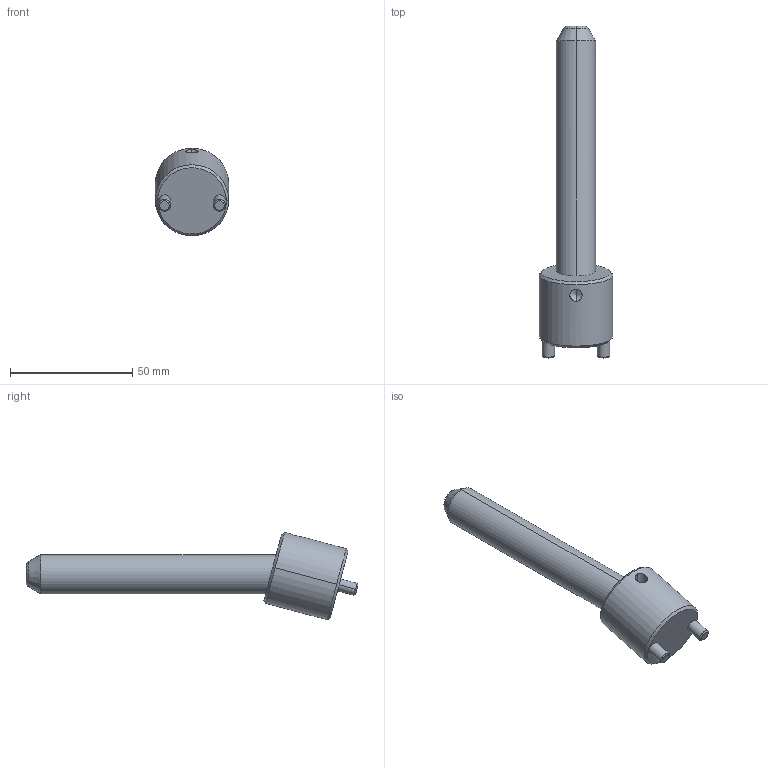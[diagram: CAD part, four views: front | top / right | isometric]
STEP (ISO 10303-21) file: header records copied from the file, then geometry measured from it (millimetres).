
FILE_DESCRIPTION(('CATIA V5 STEP Exchange'),'2;1');
FILE_NAME('C:\Users\Raffaele\Desktop\3D BOLEX\3D FILES CF BOLEX\19-INCLINED ASSEMBLY REF_CI\CI1516100.stp','2019-06-21T14:13:16+00:00',('none'),('none'),'CATIA Version 5 Release 20 GA (IN-10)','CATIA V5 STEP AP203','none');
FILE_SCHEMA(('CONFIG_CONTROL_DESIGN'));
Length unit declared in the file: millimetre
Products named in the file (1): CI1516100
Assembly tree (2 placements, depth 2):
  CI1516100
    #58
    #578
Bounding box: 30 x 135.58 x 35.71 mm (x, y, z)
Volume: 39356.1 mm3; surface area: 11962.4 mm2
Topology: 2 solids, 2 shells, 39 faces, 82 edges, 47 vertices
Faces by surface type: cone 14, cylinder 14, plane 7, torus 4
Entity records: 1470 total; most frequent: CARTESIAN_POINT 611, ORIENTED_EDGE 160, DIRECTION 145, EDGE_CURVE 80, AXIS2_PLACEMENT_3D 72, VERTEX_POINT 47, EDGE_LOOP 43, ADVANCED_FACE 39
